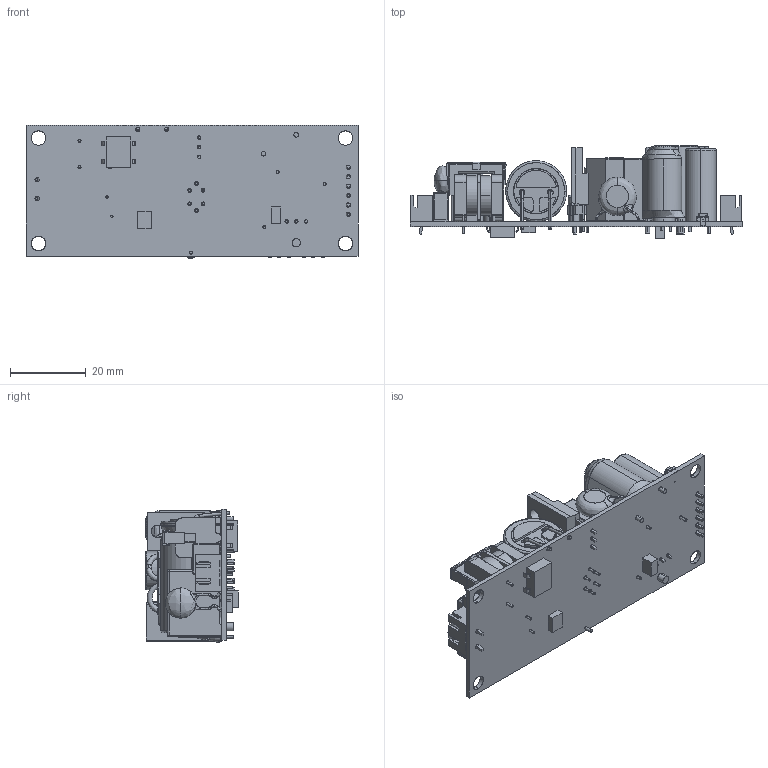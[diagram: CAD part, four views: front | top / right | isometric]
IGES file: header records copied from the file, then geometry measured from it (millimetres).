
Start section: SolidWorks IGES file using analytic representation for surfaces
Global section: file name: C:\Users\dcook\Desktop\KENT\CAD Models for Dave to clean\CAD Models for Dave to clean\ECL25USXX-T\ECL25USXX-T.IGS; native system: SolidWorks 2012; preprocessor: SolidWorks 2012; author: dcook; date: 120112.092444; units: millimetre
Bounding box: 87.9 x 24.6 x 35.22 mm (x, y, z)
Surface area: 22986.7 mm2 (no closed solid volume)
Topology: 0 solids, 0 shells, 1481 faces, 14114 edges, 14093 vertices
Faces by surface type: bspline 1032, revolution 449
